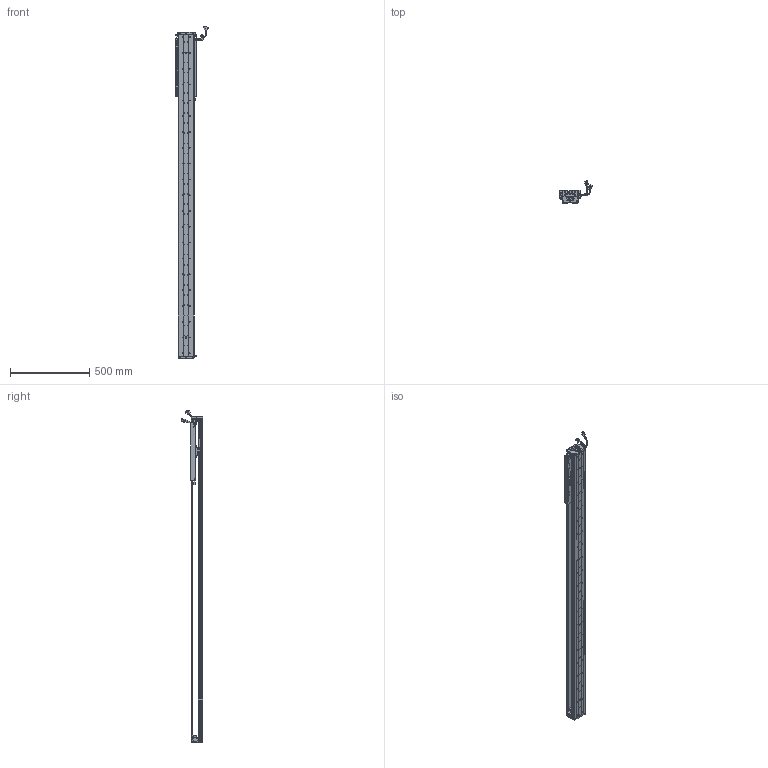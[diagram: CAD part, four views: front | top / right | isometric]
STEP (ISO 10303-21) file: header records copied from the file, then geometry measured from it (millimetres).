
FILE_DESCRIPTION (( 'STEP AP203' ), '1' );
FILE_NAME ('Z5-RY100D-1-L500-B-K.SLDASM_1600.step', '2021-05-17T03:33:47', ( '盈信电脑' ), ( '东莞市道滘镇水果街19号' ), 'SwSTEP 2.0', 'SolidWorks 2016', '' );
FILE_SCHEMA (( 'CONFIG_CONTROL_DESIGN' ));
Length unit declared in the file: millimetre
Products named in the file (36): LABEL-Part-1; SCALE-Part-1; Z-100詩湍傷裔啣; SCALE; HARNESS; SCREW-M1.6-1; SCREW-M1.6-3; Z5-RY100D-1-L500-B-K.SLDASM_1600; Z-RY100D詩湍狟揤裔; SCREW-M1.6; 140蚥薯蝶輸; COVER; Z5-RY100D-500-倰第菁釱_1600; 100-Z-臏賑輸盄裔(21遴); HARNESS-Part-1; PBU_SHEET; SEAL-Part-1; SCREW-M1.7; 140雄赽晤鎢ん堤盄; SCREW-M1.6-2; Z5-RY100-L500詩湍90mm遵_1600; SEAL; 覜茼ん672; PSLH080_PSLF2; HOLDER0; Z5-RY100铝滑块（21款）; Z-RY100D覜茼んえ; SHIELDPLATE; 榋妏寠巭燃_暯_M2_2; HARNESS-Part-2; Z-RY100D詩湍奻揤裔; LABEL; SCREW-M1.7-1; SCALE-Part-2; COVER-Part-1; 080黍杅芛假蚾釱21遴
Assembly tree (43 placements, depth 4):
  Z5-RY100D-1-L500-B-K.SLDASM_1600
    Z5-RY100D-500-倰第菁釱_1600
    Z5-RY100铝滑块（21款）
    PSLH080_PSLF2
      SCALE
        SCALE-Part-1
        SCALE-Part-2
      HARNESS
        HARNESS-Part-1
        HARNESS-Part-2
      LABEL
        LABEL-Part-1
      COVER
        COVER-Part-1
      SEAL
        SEAL-Part-1
      榋妏寠巭燃_暯_M2_2
      SHIELDPLATE
      SCREW-M1.7
      SCREW-M1.7-1
      PBU_SHEET
      SCREW-M1.6
      SCREW-M1.6-1
      SCREW-M1.6-2
      SCREW-M1.6-3
      HOLDER0
    080黍杅芛假蚾釱21遴
    Z-100詩湍傷裔啣  x2
    140蚥薯蝶輸  x2
    覜茼ん672  x3
    Z-RY100D覜茼んえ  x3
    100-Z-臏賑輸盄裔(21遴)
    140雄赽晤鎢ん堤盄
    Z5-RY100-L500詩湍90mm遵_1600
    Z-RY100D詩湍狟揤裔  x2
    Z-RY100D詩湍奻揤裔  x2
Bounding box: 205.84 x 136.11 x 2100.43 mm (x, y, z)
Volume: 4188563.5 mm3; surface area: 1603553.6 mm2
Topology: 38 solids, 38 shells, 2867 faces, 7717 edges, 4912 vertices
Faces by surface type: cylinder 1354, plane 1165, cone 226, torus 69, bspline 53
Entity records: 81291 total; most frequent: CARTESIAN_POINT 17047, DIRECTION 13043, ORIENTED_EDGE 12314, EDGE_CURVE 6157, AXIS2_PLACEMENT_3D 4872, VERTEX_POINT 3980, LINE 3299, VECTOR 3299
